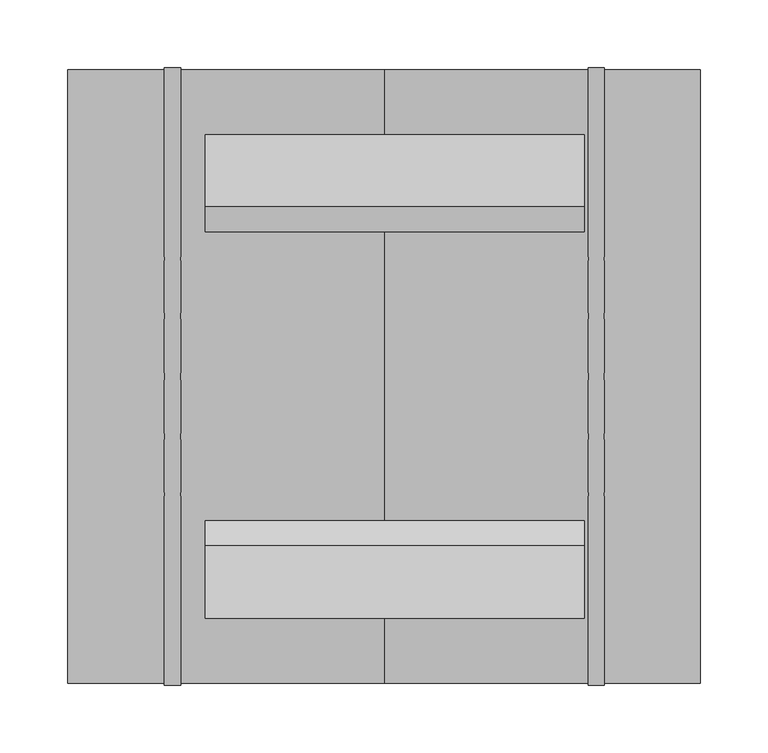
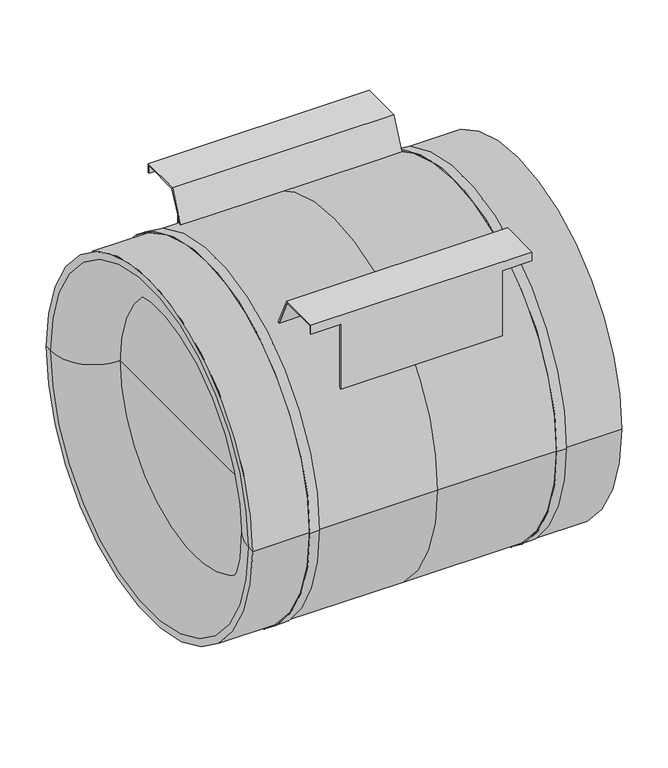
"""IFC4 building model written with IfcOpenShell, lengths in millimetres: unitary equipment geometry, VE-Wentylator-ParaForma-Harmann-JETTEC-Nawiewny : 450/7300F."""

from ifc_helpers import new_model, si_unit, point, frame, frame_2d, origin, place, context, project, spatial, polyline, circle_curve, ellipse_curve, trimmed, segment, composite_curve, outline, extrude, source, transform, mapped, element, save
from ifc_brep_helpers import plane_surface, cylinder_surface, revolved_surface, advanced_brep


def unitary_equipment_2de572d7(model_context):
    return source(origin(), model_context, "Body", "SolidModel", [
        extrude(outline(composite_curve([segment(polyline([(-45.5, -47.7), (-45.5, 47.7)]), True, "CONTINUOUS"), segment(trimmed(circle_curve(frame_2d((-40.5, 47.7)), 5.0), [point((-45.5, 47.7))], [point((-40.5, 52.7))], False, "CARTESIAN"), True, "CONTINUOUS"), segment(polyline([(-40.5, 52.7), (40.5, 52.7)]), True, "CONTINUOUS"), segment(trimmed(circle_curve(frame_2d((40.5, 47.7)), 5.0), [point((40.5, 52.7))], [point((45.5, 47.7))], False, "CARTESIAN"), True, "CONTINUOUS"), segment(polyline([(45.5, 47.7), (45.5, -47.7)]), True, "CONTINUOUS"), segment(trimmed(circle_curve(frame_2d((40.5, -47.7)), 5.0), [point((45.5, -47.7))], [point((40.5, -52.7))], False, "CARTESIAN"), True, "CONTINUOUS"), segment(polyline([(40.5, -52.7), (-40.5, -52.7)]), True, "CONTINUOUS"), segment(trimmed(circle_curve(frame_2d((-40.5, -47.7)), 5.0), [point((-40.5, -52.7))], [point((-45.5, -47.7))], False, "CARTESIAN"), True, "CONTINUOUS")], self_intersect=False)), frame((0.0, -55.0, 0.0), z_axis=(0.0, 1.0, 0.0), x_axis=(0.0, 0.0, 1.0)), (0.0, 0.0, 1.0), 45.0),
        advanced_brep(
        [(147.5, 178.5, 226.5), (147.5, 178.5, 238.5), (147.5, 125.2, 238.5), (147.5, 106.8284471, 199.7246427), (147.5, 108.5903171, 198.7722139), (147.5, 126.4655365, 236.5), (147.5, 176.5, 236.5), (147.5, 176.5, 226.5), (110.0, 176.5, 226.5), (110.0, 178.5, 226.5), (-132.5, 176.5, 236.5), (-132.5, 176.5, 226.5), (-95.0, 176.5, 226.5), (-95.0, 176.5, 141.9506957), (110.0, 176.5, 141.9506957), (-132.5, 126.4655365, 236.5), (110.0, 108.5903171, 198.7722139), (-95.0, 108.5903171, 198.7722139), (-132.5, 108.5903171, 198.7722139), (-132.5, 125.2, 238.5), (-132.5, 106.8284471, 199.7246427), (-95.0, 106.8284471, 199.7246427), (110.0, 106.8284471, 199.7246427), (-132.5, 178.5, 238.5), (110.0, 178.5, 139.4274005), (-95.0, 178.5, 139.4274005), (-95.0, 178.5, 226.5), (-132.5, 178.5, 226.5)],
        [
            (0, 1),
            (1, 2),
            (2, 3),
            (3, 4, circle_curve(frame((147.5, 0.0, 0.0), z_axis=(-1.0, 0.0, 0.0), x_axis=(0.0, 1.0, 0.0)), 226.5)),
            (4, 5),
            (5, 6),
            (6, 7),
            (7, 0),
            (7, 8),
            (8, 9),
            (9, 0),
            (6, 10),
            (10, 11),
            (11, 12),
            (12, 13),
            (13, 14),
            (14, 8),
            (5, 15),
            (15, 10),
            (4, 16),
            (16, 17),
            (17, 18),
            (18, 15),
            (19, 20),
            (20, 21),
            (21, 22),
            (22, 3),
            (2, 19),
            (1, 23),
            (23, 19),
            (9, 24),
            (24, 25),
            (25, 26),
            (26, 27),
            (27, 23),
            (20, 18, circle_curve(frame((-132.5, 0.0, 0.0), z_axis=(-1.0, 0.0, 0.0), x_axis=(0.0, 1.0, 0.0)), 226.5)),
            (17, 21, circle_curve(frame((-95.0, 0.0, 0.0), z_axis=(1.0, 0.0, 0.0), x_axis=(0.0, 1.0, 0.0)), 226.5)),
            (22, 16, circle_curve(frame((110.0, 0.0, 0.0), z_axis=(-1.0, 0.0, 0.0), x_axis=(0.0, 1.0, 0.0)), 226.5)),
            (25, 13, circle_curve(frame((-95.0, 0.0, 0.0), z_axis=(1.0, 0.0, 0.0), x_axis=(0.0, 1.0, 0.0)), 226.5)),
            (12, 26),
            (14, 24, circle_curve(frame((110.0, 0.0, 0.0), z_axis=(-1.0, 0.0, 0.0), x_axis=(0.0, 1.0, 0.0)), 226.5)),
            (27, 11),
        ],
        [
            plane_surface(frame((147.5, 0.0, 0.0), z_axis=(1.0, 0.0, 0.0), x_axis=(0.0, 0.0, 1.0))),
            plane_surface(frame((110.0, 178.5, 226.5), z_axis=(0.0, 0.0, -1.0), x_axis=(1.0, 0.0, 0.0))),
            plane_surface(frame((110.0, 176.5, 226.5), z_axis=(0.0, -1.0, 0.0), x_axis=(1.0, 0.0, 0.0))),
            plane_surface(frame((110.0, 176.5, 236.5), z_axis=(0.0, 0.0, -1.0), x_axis=(1.0, 0.0, 0.0))),
            plane_surface(frame((110.0, 126.4655365, 236.5), z_axis=(0.0, 0.9036992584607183, -0.4281677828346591), x_axis=(1.0, 0.0, 0.0))),
            plane_surface(frame((110.0, 12.2, 0.0), z_axis=(0.0, -0.9036992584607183, 0.4281677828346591), x_axis=(1.0, 0.0, 0.0))),
            plane_surface(frame((110.0, 125.2, 238.5), z_axis=(0.0, 0.0, 1.0), x_axis=(1.0, 0.0, 0.0))),
            plane_surface(frame((110.0, 178.5, 238.5), z_axis=(0.0, 1.0, 0.0), x_axis=(1.0, 0.0, 0.0))),
            revolved_surface(polyline([(-132.5, 226.5, 0.0), (-95.0, 226.5, 0.0)]), (-132.5, 0.0, 0.0), (-1.0, 0.0, 0.0)),
            revolved_surface(polyline([(110.0, 226.5, 0.0), (147.5, 226.5, 0.0)]), (110.0, 0.0, 0.0), (-1.0, 0.0, 0.0)),
            plane_surface(frame((-95.0, 0.0, 0.0), z_axis=(-1.0, 0.0, 0.0), x_axis=(0.0, 0.0, 1.0))),
            plane_surface(frame((110.0, 0.0, 0.0), z_axis=(1.0, 0.0, 0.0), x_axis=(0.0, 0.0, 1.0))),
            revolved_surface(polyline([(-95.0, 226.5, 0.0), (110.0, 226.5, 0.0)]), (-95.0, 0.0, 0.0), (-1.0, 0.0, 0.0)),
            plane_surface(frame((-132.5, 0.0, 0.0), z_axis=(-1.0, 0.0, 0.0), x_axis=(0.0, 0.0, 1.0))),
            plane_surface(frame((-132.5, 178.5, 226.5), z_axis=(0.0, 0.0, -1.0), x_axis=(1.0, 0.0, 0.0))),
        ],
        [
            (0, [[1, 2, 3, 4, 5, 6, 7, 8]]),
            (1, [[-8, 9, 10, 11]]),
            (2, [[-7, 12, 13, 14, 15, 16, 17, -9]]),
            (3, [[-12, -6, 18, 19]]),
            (4, [[-18, -5, 20, 21, 22, 23]]),
            (5, [[24, 25, 26, 27, -3, 28]]),
            (6, [[-28, -2, 29, 30]]),
            (7, [[-29, -1, -11, 31, 32, 33, 34, 35]]),
            (8, [[36, -22, 37, -25]]),
            (9, [[-4, -27, 38, -20]]),
            (10, [[39, -15, 40, -33]]),
            (11, [[41, -31, -10, -17]]),
            (12, [[-21, -38, -26, -37]]),
            (12, [[-39, -32, -41, -16]]),
            (13, [[42, -13, -19, -23, -36, -24, -30, -35]]),
            (14, [[-42, -34, -40, -14]]),
        ],
    ),
        advanced_brep(
        [(147.5, -125.2, 238.5), (147.5, -178.5, 238.5), (147.5, -178.5, 226.5), (147.5, -176.5, 226.5), (147.5, -176.5, 236.5), (147.5, -126.4655365, 236.5), (147.5, -108.5903171, 198.7722139), (147.5, -106.8284471, 199.7246427), (-132.5, -126.4655365, 236.5), (-132.5, -108.5903171, 198.7722139), (-95.0, -108.5903171, 198.7722139), (110.0, -108.5903171, 198.7722139), (-132.5, -176.5, 236.5), (110.0, -176.5, 226.5), (110.0, -176.5, 141.9506957), (-95.0, -176.5, 141.9506957), (-95.0, -176.5, 226.5), (-132.5, -176.5, 226.5), (110.0, -178.5, 226.5), (-132.5, -178.5, 238.5), (-132.5, -178.5, 226.5), (-95.0, -178.5, 226.5), (-95.0, -178.5, 139.4274005), (110.0, -178.5, 139.4274005), (-132.5, -125.2, 238.5), (110.0, -106.8284471, 199.7246427), (-95.0, -106.8284471, 199.7246427), (-132.5, -106.8284471, 199.7246427)],
        [
            (0, 1),
            (1, 2),
            (2, 3),
            (3, 4),
            (4, 5),
            (5, 6),
            (6, 7, circle_curve(frame((147.5, 0.0, 0.0), z_axis=(-1.0, 0.0, 0.0), x_axis=(0.0, 1.0, 0.0)), 226.5)),
            (7, 0),
            (8, 9),
            (9, 10),
            (10, 11),
            (11, 6),
            (5, 8),
            (4, 12),
            (12, 8),
            (3, 13),
            (13, 14),
            (14, 15),
            (15, 16),
            (16, 17),
            (17, 12),
            (2, 18),
            (18, 13),
            (1, 19),
            (19, 20),
            (20, 21),
            (21, 22),
            (22, 23),
            (23, 18),
            (0, 24),
            (24, 19),
            (7, 25),
            (25, 26),
            (26, 27),
            (27, 24),
            (9, 27, circle_curve(frame((-132.5, 0.0, 0.0), z_axis=(-1.0, 0.0, 0.0), x_axis=(0.0, 1.0, 0.0)), 226.5)),
            (26, 10, circle_curve(frame((-95.0, 0.0, 0.0), z_axis=(1.0, 0.0, 0.0), x_axis=(0.0, 1.0, 0.0)), 226.5)),
            (11, 25, circle_curve(frame((110.0, 0.0, 0.0), z_axis=(-1.0, 0.0, 0.0), x_axis=(0.0, 1.0, 0.0)), 226.5)),
            (15, 22, circle_curve(frame((-95.0, 0.0, 0.0), z_axis=(1.0, 0.0, 0.0), x_axis=(0.0, 1.0, 0.0)), 226.5)),
            (21, 16),
            (23, 14, circle_curve(frame((110.0, 0.0, 0.0), z_axis=(-1.0, 0.0, 0.0), x_axis=(0.0, 1.0, 0.0)), 226.5)),
            (17, 20),
        ],
        [
            plane_surface(frame((147.5, 0.0, 0.0), z_axis=(1.0, 0.0, 0.0), x_axis=(0.0, 0.0, 1.0))),
            plane_surface(frame((110.0, -13.4655365, -2.0), z_axis=(0.0, -0.9036992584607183, -0.4281677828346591), x_axis=(1.0, 0.0, 0.0))),
            plane_surface(frame((110.0, -126.4655365, 236.5), z_axis=(0.0, 0.0, -1.0), x_axis=(1.0, 0.0, 0.0))),
            plane_surface(frame((110.0, -176.5, 236.5), z_axis=(0.0, 1.0, 0.0), x_axis=(1.0, 0.0, 0.0))),
            plane_surface(frame((110.0, -176.5, 226.5), z_axis=(0.0, 0.0, -1.0), x_axis=(1.0, 0.0, 0.0))),
            plane_surface(frame((110.0, -178.5, 226.5), z_axis=(0.0, -1.0, 0.0), x_axis=(1.0, 0.0, 0.0))),
            plane_surface(frame((110.0, -178.5, 238.5), z_axis=(0.0, 0.0, 1.0), x_axis=(1.0, 0.0, 0.0))),
            plane_surface(frame((110.0, -125.2, 238.5), z_axis=(0.0, 0.9036992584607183, 0.4281677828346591), x_axis=(1.0, 0.0, 0.0))),
            revolved_surface(polyline([(-132.5, 226.5, 0.0), (-95.0, 226.5, 0.0)]), (-132.5, 0.0, 0.0), (-1.0, 0.0, 0.0)),
            revolved_surface(polyline([(110.0, 226.5, 0.0), (147.5, 226.5, 0.0)]), (110.0, 0.0, 0.0), (-1.0, 0.0, 0.0)),
            plane_surface(frame((-95.0, 0.0, 0.0), z_axis=(-1.0, 0.0, 0.0), x_axis=(0.0, 0.0, 1.0))),
            plane_surface(frame((110.0, 0.0, 0.0), z_axis=(1.0, 0.0, 0.0), x_axis=(0.0, 0.0, 1.0))),
            revolved_surface(polyline([(-95.0, 226.5, 0.0), (110.0, 226.5, 0.0)]), (-95.0, 0.0, 0.0), (-1.0, 0.0, 0.0)),
            plane_surface(frame((-132.5, 0.0, 0.0), z_axis=(-1.0, 0.0, 0.0), x_axis=(0.0, 0.0, 1.0))),
            plane_surface(frame((-132.5, -176.5, 226.5), z_axis=(0.0, 0.0, -1.0), x_axis=(1.0, 0.0, 0.0))),
        ],
        [
            (0, [[1, 2, 3, 4, 5, 6, 7, 8]]),
            (1, [[9, 10, 11, 12, -6, 13]]),
            (2, [[-13, -5, 14, 15]]),
            (3, [[-14, -4, 16, 17, 18, 19, 20, 21]]),
            (4, [[-3, 22, 23, -16]]),
            (5, [[-2, 24, 25, 26, 27, 28, 29, -22]]),
            (6, [[-24, -1, 30, 31]]),
            (7, [[-30, -8, 32, 33, 34, 35]]),
            (8, [[36, -34, 37, -10]]),
            (9, [[-7, -12, 38, -32]]),
            (10, [[39, -27, 40, -19]]),
            (11, [[41, -17, -23, -29]]),
            (12, [[-11, -37, -33, -38]]),
            (12, [[-39, -18, -41, -28]]),
            (13, [[-15, -21, 42, -25, -31, -35, -36, -9]]),
            (14, [[-42, -20, -40, -26]]),
        ],
    ),
        advanced_brep(
        [(-150.5, 226.5, 0.0), (0.0, 226.5, 0.0), (0.0, -226.5, 0.0), (-150.5, -226.5, 0.0), (-234.0, -226.5, 0.0), (-234.0, 226.5, 0.0), (-162.5, 226.5, 0.0), (-162.5, -226.5, 0.0), (-234.0, -217.5, 0.0), (-234.0, 217.5, 0.0), (-177.8, -162.0, 0.0), (-177.8, 162.0, 0.0), (-177.8, 0.0, 0.0), (233.3, -226.5, 0.0), (233.3, 226.5, 0.0), (233.3, 0.0, 0.0), (162.5, -226.5, 0.0), (162.5, 226.5, 0.0), (150.5, 226.5, 0.0), (150.5, -226.5, 0.0), (-150.5, -228.0, 0.0), (-150.5, 228.0, 0.0), (-162.5, -228.0, 0.0), (-162.5, 228.0, 0.0), (162.5, -228.0, 0.0), (162.5, 228.0, 0.0), (150.5, -228.0, 0.0), (150.5, 228.0, 0.0)],
        [
            (0, 1),
            (1, 2, circle_curve(frame((0.0, 0.0, 0.0), z_axis=(-1.0, 0.0, 0.0), x_axis=(0.0, 1.0, 0.0)), 226.5)),
            (2, 3),
            (3, 0, circle_curve(frame((-150.5, 0.0, 0.0), z_axis=(1.0, 0.0, 0.0), x_axis=(0.0, 1.0, 0.0)), 226.5)),
            (0, 3, circle_curve(frame((-150.5, 0.0, 0.0), z_axis=(1.0, 0.0, 0.0), x_axis=(0.0, 1.0, 0.0)), 226.5)),
            (2, 1, circle_curve(frame((0.0, 0.0, 0.0), z_axis=(-1.0, 0.0, 0.0), x_axis=(0.0, 1.0, 0.0)), 226.5)),
            (4, 5, circle_curve(frame((-234.0, 0.0, 0.0), z_axis=(1.0, 0.0, 0.0), x_axis=(0.0, 1.0, 0.0)), 226.5)),
            (5, 6),
            (6, 7, circle_curve(frame((-162.5, 0.0, 0.0), z_axis=(-1.0, 0.0, 0.0), x_axis=(0.0, 1.0, 0.0)), 226.5)),
            (7, 4),
            (5, 4, circle_curve(frame((-234.0, 0.0, 0.0), z_axis=(1.0, 0.0, 0.0), x_axis=(0.0, 1.0, 0.0)), 226.5)),
            (7, 6, circle_curve(frame((-162.5, 0.0, 0.0), z_axis=(-1.0, 0.0, 0.0), x_axis=(0.0, 1.0, 0.0)), 226.5)),
            (4, 8),
            (8, 9, circle_curve(frame((-234.0, 0.0, 0.0), z_axis=(1.0, 0.0, 0.0), x_axis=(0.0, 1.0, 0.0)), 217.5)),
            (9, 5),
            (9, 8, circle_curve(frame((-234.0, 0.0, 0.0), z_axis=(1.0, 0.0, 0.0), x_axis=(0.0, 1.0, 0.0)), 217.5)),
            (8, 10, circle_curve(frame((-178.5000002, -217.4955854, 0.0), z_axis=(0.0, 0.0, -1.0), x_axis=(1.0, 0.0, 0.0)), 55.5)),
            (10, 11, circle_curve(frame((-177.8, 0.0, 0.0), z_axis=(1.0, 0.0, 0.0), x_axis=(0.0, 1.0, 0.0)), 162.0)),
            (11, 9, circle_curve(frame((-178.5000002, 217.4955854, 0.0), z_axis=(0.0, 0.0, -1.0), x_axis=(1.0, 0.0, 0.0)), 55.5)),
            (11, 10, circle_curve(frame((-177.8, 0.0, 0.0), z_axis=(1.0, 0.0, 0.0), x_axis=(0.0, 1.0, 0.0)), 162.0)),
            (10, 12),
            (12, 11),
            (13, 14, circle_curve(frame((233.3, 0.0, 0.0), z_axis=(1.0, 0.0, 0.0), x_axis=(0.0, 1.0, 0.0)), 226.5)),
            (14, 15),
            (15, 13),
            (14, 13, circle_curve(frame((233.3, 0.0, 0.0), z_axis=(1.0, 0.0, 0.0), x_axis=(0.0, 1.0, 0.0)), 226.5)),
            (13, 16),
            (16, 17, circle_curve(frame((162.5, 0.0, 0.0), z_axis=(1.0, 0.0, 0.0), x_axis=(0.0, 1.0, 0.0)), 226.5)),
            (17, 14),
            (17, 16, circle_curve(frame((162.5, 0.0, 0.0), z_axis=(1.0, 0.0, 0.0), x_axis=(0.0, 1.0, 0.0)), 226.5)),
            (1, 18),
            (18, 19, circle_curve(frame((150.5, 0.0, 0.0), z_axis=(-1.0, 0.0, 0.0), x_axis=(0.0, 1.0, 0.0)), 226.5)),
            (19, 2),
            (19, 18, circle_curve(frame((150.5, 0.0, 0.0), z_axis=(-1.0, 0.0, 0.0), x_axis=(0.0, 1.0, 0.0)), 226.5)),
            (20, 21, circle_curve(frame((-150.5, 0.0, 0.0), z_axis=(1.0, 0.0, 0.0), x_axis=(0.0, 1.0, 0.0)), 228.0)),
            (21, 0),
            (3, 20),
            (21, 20, circle_curve(frame((-150.5, 0.0, 0.0), z_axis=(1.0, 0.0, 0.0), x_axis=(0.0, 1.0, 0.0)), 228.0)),
            (20, 22),
            (22, 23, circle_curve(frame((-162.5, 0.0, 0.0), z_axis=(1.0, 0.0, 0.0), x_axis=(0.0, 1.0, 0.0)), 228.0)),
            (23, 21),
            (23, 22, circle_curve(frame((-162.5, 0.0, 0.0), z_axis=(1.0, 0.0, 0.0), x_axis=(0.0, 1.0, 0.0)), 228.0)),
            (22, 7),
            (6, 23),
            (24, 25, circle_curve(frame((162.5, 0.0, 0.0), z_axis=(1.0, 0.0, 0.0), x_axis=(0.0, 1.0, 0.0)), 228.0)),
            (25, 17),
            (16, 24),
            (25, 24, circle_curve(frame((162.5, 0.0, 0.0), z_axis=(1.0, 0.0, 0.0), x_axis=(0.0, 1.0, 0.0)), 228.0)),
            (24, 26),
            (26, 27, circle_curve(frame((150.5, 0.0, 0.0), z_axis=(1.0, 0.0, 0.0), x_axis=(0.0, 1.0, 0.0)), 228.0)),
            (27, 25),
            (27, 26, circle_curve(frame((150.5, 0.0, 0.0), z_axis=(1.0, 0.0, 0.0), x_axis=(0.0, 1.0, 0.0)), 228.0)),
            (26, 19),
            (18, 27),
        ],
        [
            cylinder_surface(frame((-177.8, 0.0, 0.0), z_axis=(-1.0, 0.0, 0.0), x_axis=(0.0, 1.0, 0.0)), 226.5),
            plane_surface(frame((-234.0, 0.0, 0.0), z_axis=(-1.0, 0.0, 0.0), x_axis=(0.0, 1.0, 0.0))),
            revolved_surface(trimmed(ellipse_curve(frame((-178.5000002, 217.4955854, 0.0), z_axis=(0.0, 0.0, 1.0), x_axis=(1.0, 0.0, 0.0)), 55.5, 55.5), [point((-234.0, 217.5, 0.0))], [point((-177.8, 162.0, 0.0))], True, "CARTESIAN"), (-177.8, 0.0, 0.0), (-1.0, 0.0, 0.0)),
            plane_surface(frame((-177.8, 0.0, 0.0), z_axis=(-1.0, 0.0, 0.0), x_axis=(0.0, 1.0, 0.0))),
            plane_surface(frame((233.3, 0.0, 0.0), z_axis=(1.0, 0.0, 0.0), x_axis=(0.0, 1.0, 0.0))),
            cylinder_surface(frame((0.0, 0.0, 0.0), z_axis=(-1.0, 0.0, 0.0), x_axis=(0.0, 1.0, 0.0)), 226.5),
            plane_surface(frame((-150.5, 0.0, 0.0), z_axis=(1.0, 0.0, 0.0), x_axis=(0.0, 1.0, 0.0))),
            cylinder_surface(frame((-162.5, 0.0, 0.0), z_axis=(-1.0, 0.0, 0.0), x_axis=(0.0, 1.0, 0.0)), 228.0),
            plane_surface(frame((-162.5, 0.0, 0.0), z_axis=(-1.0, 0.0, 0.0), x_axis=(0.0, 1.0, 0.0))),
            plane_surface(frame((162.5, 0.0, 0.0), z_axis=(1.0, 0.0, 0.0), x_axis=(0.0, 1.0, 0.0))),
            plane_surface(frame((150.5, 0.0, 0.0), z_axis=(-1.0, 0.0, 0.0), x_axis=(0.0, 1.0, 0.0))),
        ],
        [
            (0, [[1, 2, 3, 4]]),
            (0, [[-1, 5, -3, 6]]),
            (0, [[7, 8, 9, 10]]),
            (0, [[-8, 11, -10, 12]]),
            (1, [[-7, 13, 14, 15]]),
            (1, [[-11, -15, 16, -13]]),
            (2, [[-14, 17, 18, 19]]),
            (2, [[-16, -19, 20, -17]]),
            (3, [[-18, 21, 22]]),
            (3, [[-20, -22, -21]]),
            (4, [[23, 24, 25]]),
            (4, [[-24, 26, -25]]),
            (5, [[-23, 27, 28, 29]]),
            (5, [[-26, -29, 30, -27]]),
            (5, [[31, 32, 33, -2]]),
            (5, [[-31, -6, -33, 34]]),
            (6, [[35, 36, -4, 37]]),
            (6, [[38, -37, -5, -36]]),
            (7, [[-35, 39, 40, 41]]),
            (7, [[-38, -41, 42, -39]]),
            (8, [[-40, 43, -9, 44]]),
            (8, [[-42, -44, -12, -43]]),
            (9, [[45, 46, -28, 47]]),
            (9, [[48, -47, -30, -46]]),
            (7, [[-45, 49, 50, 51]]),
            (7, [[-48, -51, 52, -49]]),
            (10, [[-50, 53, -32, 54]]),
            (10, [[-52, -54, -34, -53]]),
        ],
    ),
    ])


if __name__ == "__main__":
    model = new_model("IFC4")
    model_context = context("Model", 3, world=origin())
    ifc_project = project(units=[si_unit("LENGTHUNIT", "METRE", prefix="MILLI")], contexts=[model_context])
    site = spatial("IfcSite", under=ifc_project)
    building = spatial("IfcBuilding", under=site)
    placement = place(None, origin())
    unitary_equipment_shape = unitary_equipment_2de572d7(model_context)
    element("IfcUnitaryEquipment", 1, ObjectType="VE-Wentylator-ParaForma-Harmann-JETTEC-Nawiewny : 450/7300F", at=placement, inside=building, context=model_context, shape_type="MappedRepresentation", body=[
        mapped(unitary_equipment_shape, transform((0.0, 0.0, 0.0), x_axis=(1.0, 0.0, 0.0), y_axis=(0.0, 1.0, 0.0), z_axis=(0.0, 0.0, 1.0))),
    ])
    save(model, "model.ifc")
